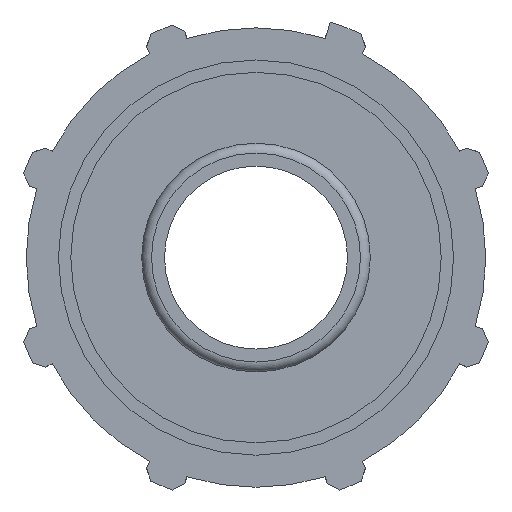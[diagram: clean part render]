
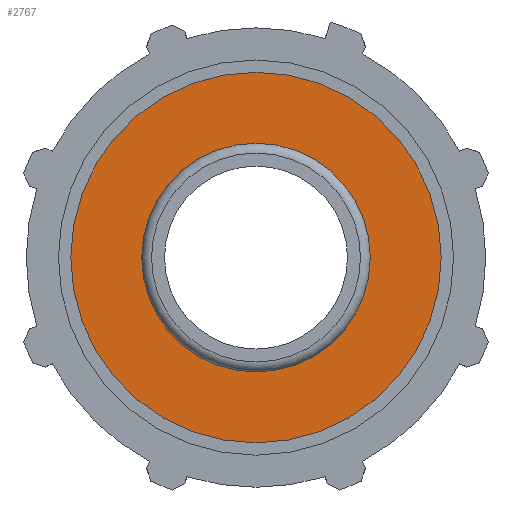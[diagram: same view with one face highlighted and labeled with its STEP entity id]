
A CAD part, left-side view. The second image highlights one B-rep face of the part: STEP entity #2767.
In plain terms, the highlighted planar face has unit normal (-1, 0, 0).
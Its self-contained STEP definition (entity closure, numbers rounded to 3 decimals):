
#585=PLANE('',#3074);
#611=FACE_BOUND('',#944,.T.);
#765=FACE_OUTER_BOUND('',#943,.T.);
#943=EDGE_LOOP('',(#2587));
#944=EDGE_LOOP('',(#2588));
#958=CIRCLE('',#2786,12.5);
#1102=CIRCLE('',#3075,20.25);
#1112=VERTEX_POINT('',#3910);
#1380=VERTEX_POINT('',#4863);
#1390=EDGE_CURVE('',#1112,#1112,#958,.T.);
#1784=EDGE_CURVE('',#1380,#1380,#1102,.T.);
#2587=ORIENTED_EDGE('',*,*,#1784,.F.);
#2588=ORIENTED_EDGE('',*,*,#1390,.T.);
#2767=ADVANCED_FACE('',(#765,#611),#585,.T.);
#2786=AXIS2_PLACEMENT_3D('',#3911,#3109,#3110);
#3074=AXIS2_PLACEMENT_3D('',#4862,#3875,#3876);
#3075=AXIS2_PLACEMENT_3D('',#4864,#3877,#3878);
#3109=DIRECTION('center_axis',(1.,0.,0.));
#3110=DIRECTION('ref_axis',(0.,0.,-1.));
#3875=DIRECTION('center_axis',(-1.,0.,0.));
#3876=DIRECTION('ref_axis',(0.,0.,1.));
#3877=DIRECTION('center_axis',(1.,0.,0.));
#3878=DIRECTION('ref_axis',(0.,0.,-1.));
#3910=CARTESIAN_POINT('',(-16.,12.5,0.));
#3911=CARTESIAN_POINT('Origin',(-16.,0.,0.));
#4862=CARTESIAN_POINT('Origin',(-16.,20.25,0.));
#4863=CARTESIAN_POINT('',(-16.,20.25,0.));
#4864=CARTESIAN_POINT('Origin',(-16.,0.,0.));
